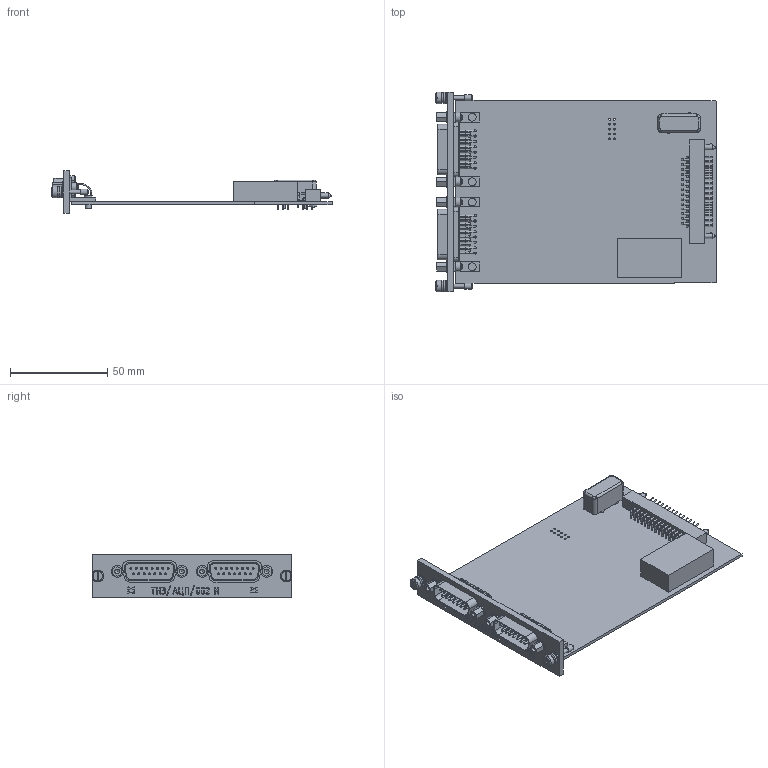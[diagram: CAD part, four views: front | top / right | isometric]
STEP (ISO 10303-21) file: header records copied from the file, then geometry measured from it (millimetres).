
FILE_DESCRIPTION(('STEP AP203'), '1');
FILE_NAME('帎迗.411135.001 沓劌錪 眝3_氈柉002', '', ('UNSPECIFIED'), ('UNSPECIFIED'), 'C3D Converter', 'C3D Toolkit', '');
FILE_SCHEMA(('CONFIG_CONTROL_DESIGN'));
Length unit declared in the file: millimetre
Products named in the file (1): КМНТ.411135.001
Bounding box: 144.3 x 103 x 21.7 mm (x, y, z)
Volume: 31608.4 mm3; surface area: 43397.1 mm2
Topology: 2 solids, 3 shells, 1884 faces, 4945 edges, 3153 vertices
Faces by surface type: cylinder 899, plane 770, torus 69, sphere 60, revolution 58, cone 16, bspline 12
Full cylindrical faces by diameter (mm): 0.6 x163, 0.76 x7, 0.8 x29, 1 x138, 1.23 x2, 1.6 x2, 2 x2, 2.459 x6, 2.49 x2, 2.5 x2, 2.7 x2, 3 x10, 3.1 x4, 3.2 x2, 3.5 x4, 4 x4, 5 x4, 6 x10
Entity records: 77210 total; most frequent: CARTESIAN_POINT 16724, DIRECTION 9779, ORIENTED_EDGE 8546, EDGE_CURVE 4273, AXIS2_PLACEMENT_3D 3838, VERTEX_POINT 3148, EDGE_LOOP 2807, FACE_BOUND 2185
